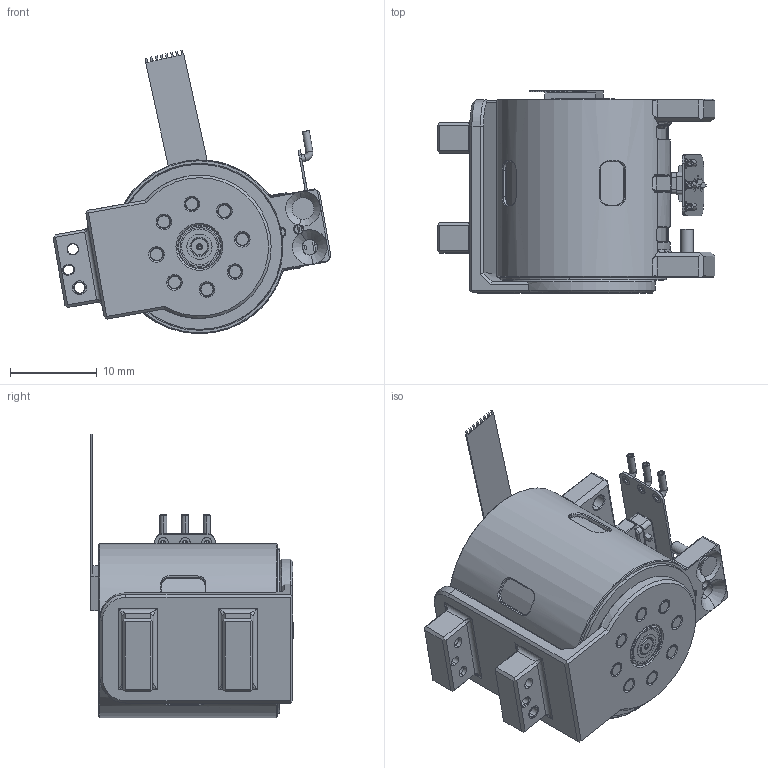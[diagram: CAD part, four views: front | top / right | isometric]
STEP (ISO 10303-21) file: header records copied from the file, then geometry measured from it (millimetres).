
FILE_DESCRIPTION((''),'2;1');
FILE_NAME('X20L-UM15_30_50-MH-4_ASM','2026-01-27T18:14:58',('wenbo'),(''),'CREO PARAMETRIC BY PTC INC, 2024325','CREO PARAMETRIC BY PTC INC, 2024325','');
FILE_SCHEMA(('CONFIG_CONTROL_DESIGN'));
Length unit declared in the file: millimetre
Products named in the file (23): 023000000004_64_1; 021100000001_ASM_35_ASM_1_ASM; 024200000005_71_1; 024300000006_19_1; 023500000004_5_1; 020600000001_ASM_38_ASM_1_ASM; PRT0003_3_1; 000200000001_ASM_127_ASM_1_ASM; 022800000002_35_1; 024800000001_7_1; 1111_2_1; 024800000001_ASM_3_ASM_1_ASM; 520_5_1; 025000000002_AF0_2_1_1_1; 025300000001_1_1_2_1_1; 025000000001_ASM_2_1_ASM_1_ASM__ASM; ASM0005_ASM_1_ASM_1_ASM; 062700000003_9_1; 065100000001_1_1; 020200000001_ASM_85_ASM_1_ASM; PRT0012_11; 020200000001_ASM_ASM_1_ASM; X20L-UM15_30_50-MH-4_ASM
Assembly tree (33 placements, depth 6):
  X20L-UM15_30_50-MH-4_ASM
    020200000001_ASM_ASM_1_ASM
      020200000001_ASM_85_ASM_1_ASM
        000200000001_ASM_127_ASM_1_ASM
          021100000001_ASM_35_ASM_1_ASM
            023000000004_64_1
          020600000001_ASM_38_ASM_1_ASM
            024200000005_71_1
            024300000006_19_1  x8
            023500000004_5_1
          PRT0003_3_1
        022800000002_35_1
        024800000001_ASM_3_ASM_1_ASM
          024800000001_7_1
          1111_2_1
        520_5_1
        ASM0005_ASM_1_ASM_1_ASM
          025000000001_ASM_2_1_ASM_1_ASM__ASM
            025000000002_AF0_2_1_1_1
            025300000001_1_1_2_1_1  x3
        062700000003_9_1
        065100000001_1_1  x3
      PRT0012_11
Bounding box: 31.97 x 23.3 x 32.61 mm (x, y, z)
Volume: 6976.3 mm3; surface area: 7744.2 mm2
Topology: 25 solids, 30 shells, 976 faces, 2568 edges, 1666 vertices
Faces by surface type: plane 389, cylinder 261, torus 129, cone 127, bspline 60, extrusion 8, sphere 2
Entity records: 32060 total; most frequent: CARTESIAN_POINT 9537, DIRECTION 4807, ORIENTED_EDGE 4588, EDGE_CURVE 2300, AXIS2_PLACEMENT_3D 1853, VERTEX_POINT 1500, VECTOR 1101, LINE 1093
